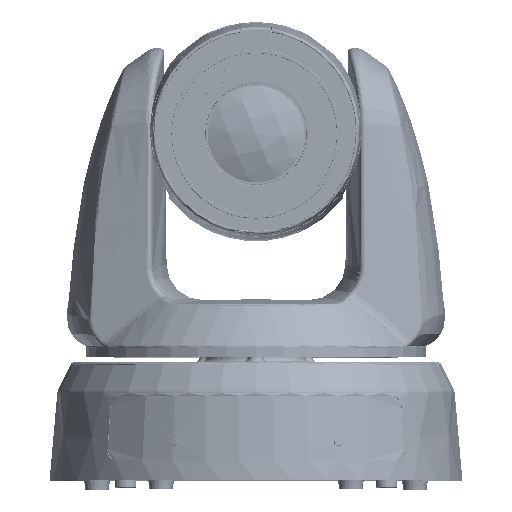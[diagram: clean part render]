
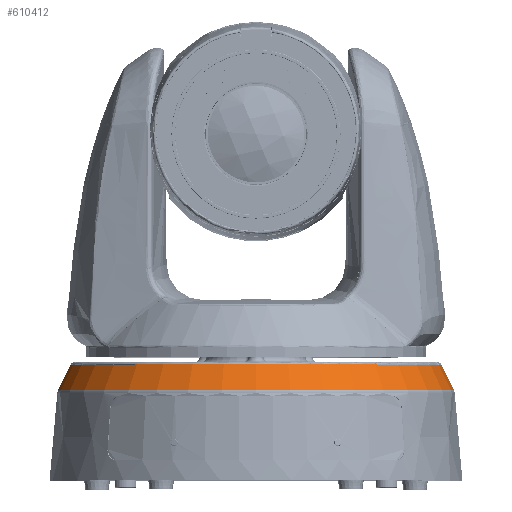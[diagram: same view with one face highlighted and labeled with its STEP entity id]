
A CAD part, top view. The second image highlights one B-rep face of the part: STEP entity #610412.
In plain terms, the highlighted conical face has half-angle 26.059 degrees and reference radius 77.626 mm.
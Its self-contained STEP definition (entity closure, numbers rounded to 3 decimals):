
#3440 = ORIENTED_EDGE ( 'NONE', *, *, #725848, .T. ) ;
#12076 = CARTESIAN_POINT ( 'NONE',  ( -83.388, -103.385, 0. ) ) ;
#79218 = CONICAL_SURFACE ( 'NONE', #235409, 77.626, 0.455 ) ;
#83036 = CARTESIAN_POINT ( 'NONE',  ( 83.388, -103.385, 0. ) ) ;
#105013 = DIRECTION ( 'NONE',  ( -0.439, 0.898, 0. ) ) ;
#175864 = CIRCLE ( 'NONE', #228124, 78.174 ) ;
#182103 = ORIENTED_EDGE ( 'NONE', *, *, #593680, .T. ) ;
#185461 = CARTESIAN_POINT ( 'NONE',  ( 0., -91.6, 0. ) ) ;
#192890 = DIRECTION ( 'NONE',  ( 0.439, 0.898, 0. ) ) ;
#194624 = VERTEX_POINT ( 'NONE', #505107 ) ;
#211756 = DIRECTION ( 'NONE',  ( 0., 1., 0. ) ) ;
#212781 = VECTOR ( 'NONE', #105013, 1000. ) ;
#228124 = AXIS2_PLACEMENT_3D ( 'NONE', #534384, #660395, #400472 ) ;
#228190 = VERTEX_POINT ( 'NONE', #12076 ) ;
#232092 = CARTESIAN_POINT ( 'NONE',  ( 0., -103.385, 83.388 ) ) ;
#235409 = AXIS2_PLACEMENT_3D ( 'NONE', #185461, #750209, #368406 ) ;
#280736 = CARTESIAN_POINT ( 'NONE',  ( 0., -103.385, 0. ) ) ;
#287049 = EDGE_CURVE ( 'NONE', #228190, #452136, #753645, .T. ) ;
#318367 = CARTESIAN_POINT ( 'NONE',  ( -78.174, -92.721, 0. ) ) ;
#321004 = ORIENTED_EDGE ( 'NONE', *, *, #467014, .T. ) ;
#343138 = DIRECTION ( 'NONE',  ( 0., 0., -1. ) ) ;
#356978 = LINE ( 'NONE', #604870, #212781 ) ;
#368406 = DIRECTION ( 'NONE',  ( 0., 0., -1. ) ) ;
#382843 = CIRCLE ( 'NONE', #538853, 83.388 ) ;
#400472 = DIRECTION ( 'NONE',  ( 0., 0., -1. ) ) ;
#402664 = DIRECTION ( 'NONE',  ( 0., 0., -1. ) ) ;
#406290 = AXIS2_PLACEMENT_3D ( 'NONE', #280736, #211756, #402664 ) ;
#420398 = EDGE_LOOP ( 'NONE', ( #503774, #3440, #321004, #182103, #531618 ) ) ;
#445129 = CIRCLE ( 'NONE', #406290, 83.388 ) ;
#452136 = VERTEX_POINT ( 'NONE', #318367 ) ;
#467014 = EDGE_CURVE ( 'NONE', #739540, #194624, #356978, .T. ) ;
#503774 = ORIENTED_EDGE ( 'NONE', *, *, #587907, .T. ) ;
#505107 = CARTESIAN_POINT ( 'NONE',  ( 78.174, -92.721, 0. ) ) ;
#508173 = VERTEX_POINT ( 'NONE', #232092 ) ;
#531618 = ORIENTED_EDGE ( 'NONE', *, *, #287049, .F. ) ;
#534384 = CARTESIAN_POINT ( 'NONE',  ( 0., -92.721, 0. ) ) ;
#538853 = AXIS2_PLACEMENT_3D ( 'NONE', #660032, #656053, #343138 ) ;
#587907 = EDGE_CURVE ( 'NONE', #228190, #508173, #445129, .T. ) ;
#593680 = EDGE_CURVE ( 'NONE', #194624, #452136, #175864, .T. ) ;
#604870 = CARTESIAN_POINT ( 'NONE',  ( 83.715, -104.052, 0. ) ) ;
#610412 = ADVANCED_FACE ( 'NONE', ( #795164 ), #79218, .T. ) ;
#656053 = DIRECTION ( 'NONE',  ( 0., 1., 0. ) ) ;
#660032 = CARTESIAN_POINT ( 'NONE',  ( 0., -103.385, 0. ) ) ;
#660395 = DIRECTION ( 'NONE',  ( 0., -1., 0. ) ) ;
#725848 = EDGE_CURVE ( 'NONE', #508173, #739540, #382843, .T. ) ;
#739540 = VERTEX_POINT ( 'NONE', #83036 ) ;
#749679 = CARTESIAN_POINT ( 'NONE',  ( -83.715, -104.052, 0. ) ) ;
#750209 = DIRECTION ( 'NONE',  ( 0., -1., 0. ) ) ;
#753645 = LINE ( 'NONE', #749679, #781543 ) ;
#781543 = VECTOR ( 'NONE', #192890, 1000. ) ;
#795164 = FACE_OUTER_BOUND ( 'NONE', #420398, .T. ) ;
